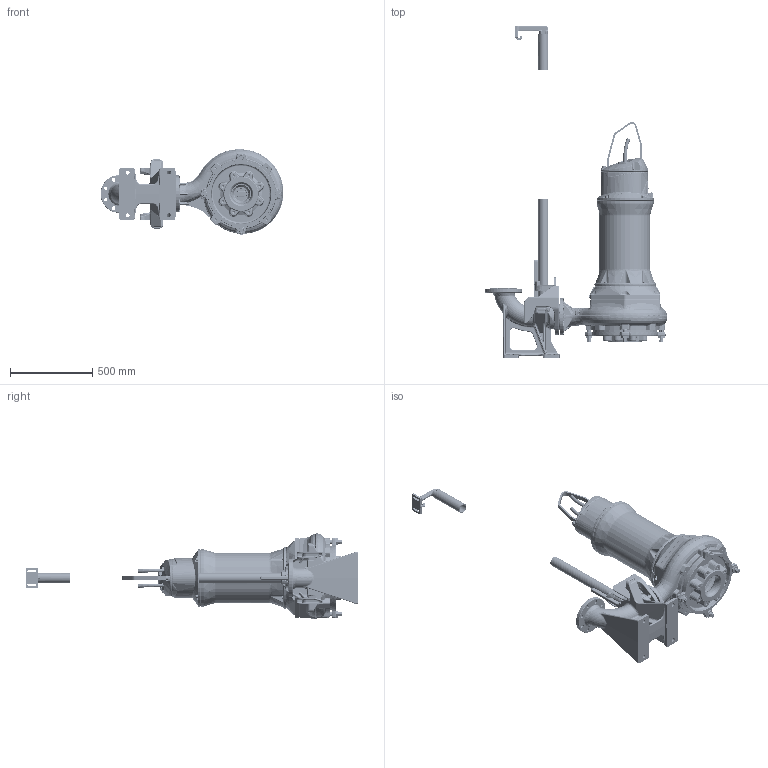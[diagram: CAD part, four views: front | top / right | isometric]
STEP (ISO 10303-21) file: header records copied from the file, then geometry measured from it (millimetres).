
FILE_DESCRIPTION (( 'STEP AP214' ), '1' );
FILE_NAME ('CFP 105J-CB2 SE3 Wet Well.STEP', '2020-09-18T14:02:45', ( '' ), ( '' ), 'SwSTEP 2.0', 'SolidWorks 2017', '' );
FILE_SCHEMA (( 'AUTOMOTIVE_DESIGN' ));
Length unit declared in the file: millimetre
Products named in the file (1): CFP 105J-CB2 SE3 Wet Well
Bounding box: 1111.2 x 2016.85 x 520.09 mm (x, y, z)
Volume: 45692541.7 mm3; surface area: 6668041.3 mm2
Topology: 72 solids, 72 shells, 10766 faces, 25993 edges, 14917 vertices
Faces by surface type: bspline 2968, cylinder 2858, plane 2350, torus 1295, cone 679, sphere 616
Entity records: 687920 total; most frequent: CARTESIAN_POINT 342818, ORIENTED_EDGE 50248, DIRECTION 43322, EDGE_CURVE 25124, AXIS2_PLACEMENT_3D 17535, VERTEX_POINT 14910, EDGE_LOOP 11406, UNCERTAINTY_MEASURE_WITH_UNIT 10839
